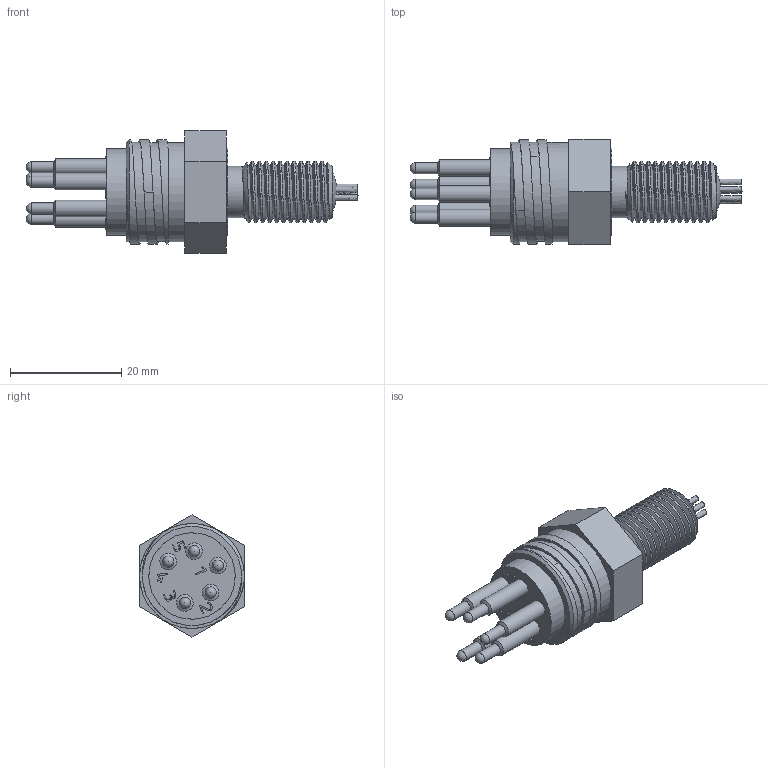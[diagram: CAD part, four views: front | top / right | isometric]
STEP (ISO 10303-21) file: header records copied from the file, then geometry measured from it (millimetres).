
FILE_DESCRIPTION(('STEP AP214'), '1');
FILE_NAME('âèëêà áëî÷íàÿ 5 pin', '', ('UNSPECIFIED'), ('UNSPECIFIED'), 'C3D Converter', 'C3D Toolkit', '');
FILE_SCHEMA(('AUTOMOTIVE_DESIGN { 1 0 10303 214 3 1 1}'));
Length unit declared in the file: millimetre
Bounding box: 59.61 x 19 x 21.94 mm (x, y, z)
Volume: 7780.6 mm3; surface area: 8470.2 mm2
Topology: 13 solids, 13 shells, 278 faces, 679 edges, 440 vertices
Faces by surface type: extrusion 97, plane 91, cylinder 47, cone 18, bspline 14, sphere 6, torus 5
Full cylindrical faces by diameter (mm): 0.6 x5, 1 x5, 2 x10, 3 x5, 6 x2, 9.2 x1, 12.6 x1, 15.5 x2, 16 x1, 17 x1
Entity records: 18232 total; most frequent: CARTESIAN_POINT 10183, ORIENTED_EDGE 1192, DIRECTION 877, EDGE_CURVE 596, VERTEX_POINT 427, EDGE_LOOP 363, VECTOR 361, B_SPLINE_CURVE_WITH_KNOTS 338
